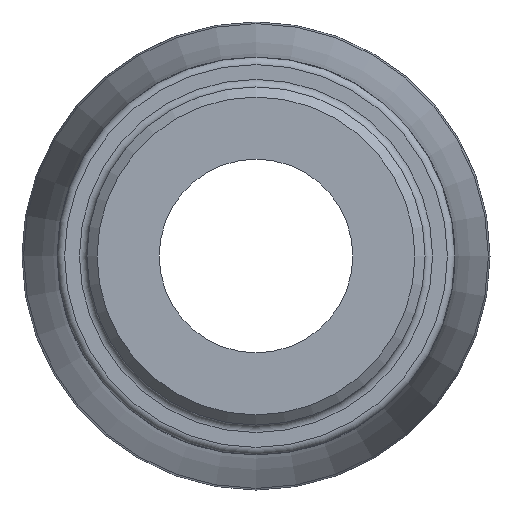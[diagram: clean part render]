
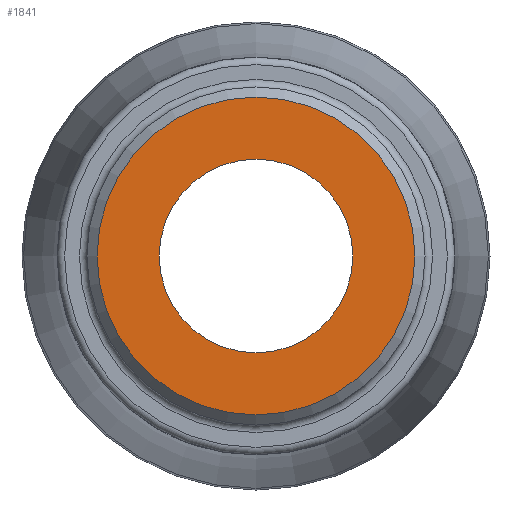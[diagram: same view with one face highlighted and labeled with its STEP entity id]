
A CAD part, left-side view. The second image highlights one B-rep face of the part: STEP entity #1841.
In plain terms, the highlighted planar face has unit normal (-1, 0, 0).
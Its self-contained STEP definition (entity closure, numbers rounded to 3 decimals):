
#193=FACE_BOUND('',#403,.T.);
#207=PLANE('',#2036);
#290=FACE_OUTER_BOUND('',#402,.T.);
#402=EDGE_LOOP('',(#1433));
#403=EDGE_LOOP('',(#1434,#1435));
#728=CIRCLE('',#2031,19.698);
#732=CIRCLE('',#2037,12.);
#733=CIRCLE('',#2038,12.);
#867=VERTEX_POINT('',#3214);
#871=VERTEX_POINT('',#3226);
#872=VERTEX_POINT('',#3227);
#1074=EDGE_CURVE('',#867,#867,#728,.T.);
#1079=EDGE_CURVE('',#871,#872,#732,.T.);
#1080=EDGE_CURVE('',#872,#871,#733,.T.);
#1433=ORIENTED_EDGE('',*,*,#1074,.F.);
#1434=ORIENTED_EDGE('',*,*,#1079,.T.);
#1435=ORIENTED_EDGE('',*,*,#1080,.T.);
#1841=ADVANCED_FACE('',(#290,#193),#207,.T.);
#2031=AXIS2_PLACEMENT_3D('',#3216,#2383,#2384);
#2036=AXIS2_PLACEMENT_3D('',#3225,#2394,#2395);
#2037=AXIS2_PLACEMENT_3D('',#3228,#2396,#2397);
#2038=AXIS2_PLACEMENT_3D('',#3229,#2398,#2399);
#2383=DIRECTION('center_axis',(1.,0.,0.));
#2384=DIRECTION('ref_axis',(0.,-1.,0.));
#2394=DIRECTION('center_axis',(-1.,0.,0.));
#2395=DIRECTION('ref_axis',(0.,0.,1.));
#2396=DIRECTION('center_axis',(1.,0.,0.));
#2397=DIRECTION('ref_axis',(0.,0.,-1.));
#2398=DIRECTION('center_axis',(1.,0.,0.));
#2399=DIRECTION('ref_axis',(0.,0.,-1.));
#3214=CARTESIAN_POINT('',(0.,19.698,0.));
#3216=CARTESIAN_POINT('Origin',(0.,0.,0.));
#3225=CARTESIAN_POINT('Origin',(0.,20.955,0.));
#3226=CARTESIAN_POINT('',(0.,12.,0.));
#3227=CARTESIAN_POINT('',(0.,-12.,0.));
#3228=CARTESIAN_POINT('Origin',(0.,0.,0.));
#3229=CARTESIAN_POINT('Origin',(0.,0.,0.));
